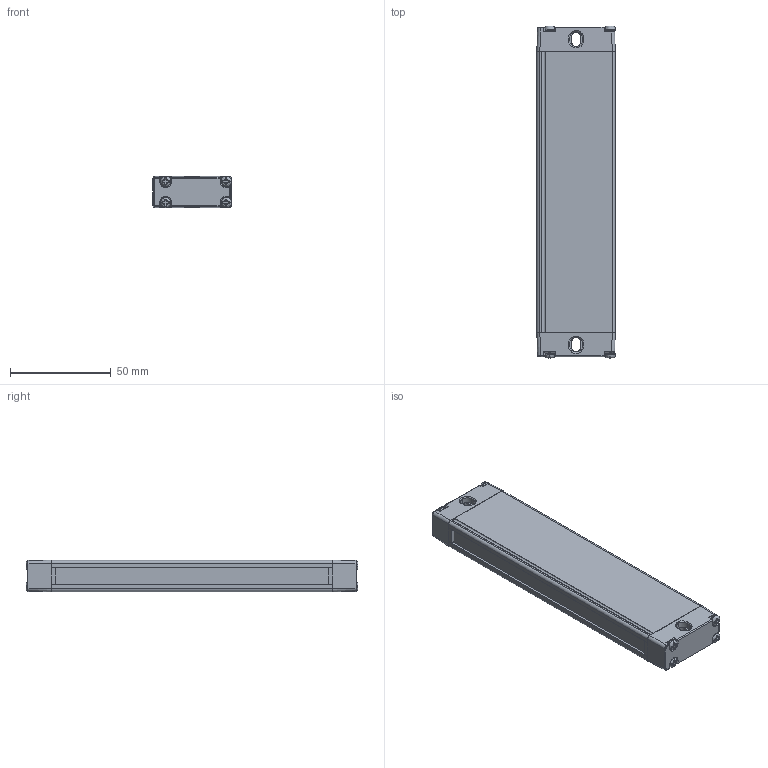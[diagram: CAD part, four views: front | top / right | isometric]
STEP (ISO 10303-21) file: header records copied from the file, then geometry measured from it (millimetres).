
FILE_DESCRIPTION((''),'2;1');
FILE_NAME('EB15--3610_ASM','2021-07-22T11:06:38',('18720616900'),(''),'CREO PARAMETRIC BY PTC INC, 2019010','CREO PARAMETRIC BY PTC INC, 2019010','');
FILE_SCHEMA(('CONFIG_CONTROL_DESIGN'));
Length unit declared in the file: millimetre
Products named in the file (6): EB15-00; EB15-000; EB15-0003; EB15-0004; ST-3-12; EB15--3610_ASM
Assembly tree (12 placements, depth 2):
  EB15--3610_ASM
    EB15-00
    EB15-000
    EB15-0003
    EB15-0004
    ST-3-12  x8
Bounding box: 39.15 x 165 x 15.8 mm (x, y, z)
Volume: 98492.9 mm3; surface area: 28827.5 mm2
Topology: 12 solids, 12 shells, 827 faces, 2188 edges, 1368 vertices
Faces by surface type: plane 242, bspline 188, cone 176, cylinder 165, torus 40, sphere 16
Entity records: 16044 total; most frequent: CARTESIAN_POINT 7660, ORIENTED_EDGE 1804, DIRECTION 1603, EDGE_CURVE 902, AXIS2_PLACEMENT_3D 577, VERTEX_POINT 563, VECTOR 449, LINE 449
